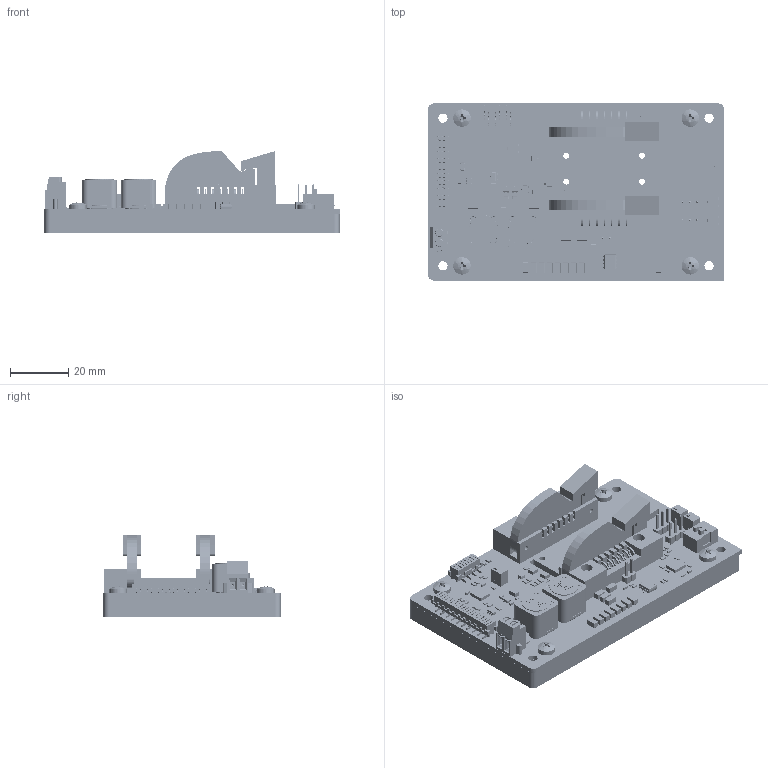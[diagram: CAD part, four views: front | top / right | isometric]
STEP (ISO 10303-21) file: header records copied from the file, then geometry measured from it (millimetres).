
FILE_DESCRIPTION (( 'STEP AP214' ), '1' );
FILE_NAME ('SF8õõõ-ZIF14_v5.1_type-1.step', '2020-12-23T13:32:07', ( 'Àíäðåé' ), ( '' ), 'SwSTEP 2.0', 'SolidWorks 2016', '' );
FILE_SCHEMA (( 'AUTOMOTIVE_DESIGN' ));
Length unit declared in the file: millimetre
Products named in the file (228): C42SF8ooo_v5.1_type-1; Body_2; C61SF8ooo_v5.1_type-1; R75SF8ooo_v5.1_type-1; 7447709001_3; 1389135584; Pin; Terminal; Terminal_9; C43SF8ooo_v5.1_type-1; Open_CASCADE_STEP_translator_6.8_2.1.1_4; C57SF8ooo_v5.1_type-1; R76SF8ooo_v5.1_type-1; Open_CASCADE_STEP_translator_6.8_2.1.1_8; Terminal_16; Open_CASCADE_STEP_translator_6.8_1.1; 7447709001_2; Open_CASCADE_STEP_translator_6.8_2.1.1_9; Mark_2; Geh__X2__00E4__X0__use; Open_CASCADE_STEP_translator_6.8_1.2.1; Open_CASCADE_STEP_translator_6.8_1.1.2; C44SF8ooo_v5.1_type-1; C46SF8ooo_v5.1_type-1; R77SF8ooo_v5.1_type-1; Open_CASCADE_STEP_translator_6.8_1.1.2_5; U8SF8ooo_v5.1_type-1; 7447709001; Terminal_2; C2SF8ooo_v5.1_type-1; Mid_Body; Open_CASCADE_STEP_translator_6.8_1.1.1_3; C45SF8ooo_v5.1_type-1; D6SF8ooo_v5.1_type-1; C30SF8ooo_v5.1_type-1; R78SF8ooo_v5.1_type-1; C72SF8ooo_v5.1_type-1; 1371558440; Q2SF8ooo_v5.1_type-1; C49SF8ooo_v5.1_type-1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
Assembly tree (341 placements, depth 6):
  SF8õõõ-ZIF14_v5.1_type-1
    BoardSF8ooo_v5.1_type-1
    R127SF8ooo_v5.1_type-1
      1389135584
        Mid_Body_2
        Terminal_2  x2
          Open_CASCADE_STEP_translator_6.8_1.2.1_2
        Mark_2
    R126SF8ooo_v5.1_type-1
      1389135584
        Mid_Body_2
        Terminal_2  x2
          Open_CASCADE_STEP_translator_6.8_1.2.1_2
        Mark_2
    R111SF8ooo_v5.1_type-1
      1389133920
        Mid_Body_5
        Terminal_5  x2
          Open_CASCADE_STEP_translator_6.8_1.2.1_5
        Mark_5
    R110SF8ooo_v5.1_type-1
      1389133920
        Mid_Body_5
        Terminal_5  x2
          Open_CASCADE_STEP_translator_6.8_1.2.1_5
        Mark_5
    D6SF8ooo_v5.1_type-1
      150080xS75000
        base
        cover
        housing
        marking  x2
        base_2
    U18SF8ooo_v5.1_type-1
      SOT95P230X110-3N
        1031183976
          Body_2
            Open_CASCADE_STEP_translator_6.8_2.1.1_4
          Leader_2  x3
    U16SF8ooo_v5.1_type-1
      CircuitWorks-SOT-23-5
    U14SF8ooo_v5.1_type-1
      User_Library-sot143
    U13SF8ooo_v5.1_type-1
      1371558576
        Extruded_5
    U11SF8ooo_v5.1_type-1
      1371558712
        Extruded_3
    U8SF8ooo_v5.1_type-1
      1371558440
        Extruded_7
    U5SF8ooo_v5.1_type-1
      SOIC127P600-8N
        1240941192
          Open_CASCADE_STEP_translator_6.8_1.1
          Body_3
            Open_CASCADE_STEP_translator_6.8_1.2.1_6
          Leader_3  x8
    U2SF8ooo_v5.1_type-1
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Bounding box: 101.65 x 61 x 28.22 mm (x, y, z)
Volume: 50472.4 mm3; surface area: 48943.2 mm2
Topology: 346 solids, 347 shells, 8521 faces, 21830 edges, 13699 vertices
Faces by surface type: plane 5315, cylinder 2302, bspline 632, cone 272
Entity records: 151964 total; most frequent: CARTESIAN_POINT 32117, ORIENTED_EDGE 19996, DIRECTION 19311, EDGE_CURVE 9999, VECTOR 7967, LINE 7967, VERTEX_POINT 6442, AXIS2_PLACEMENT_3D 5672
